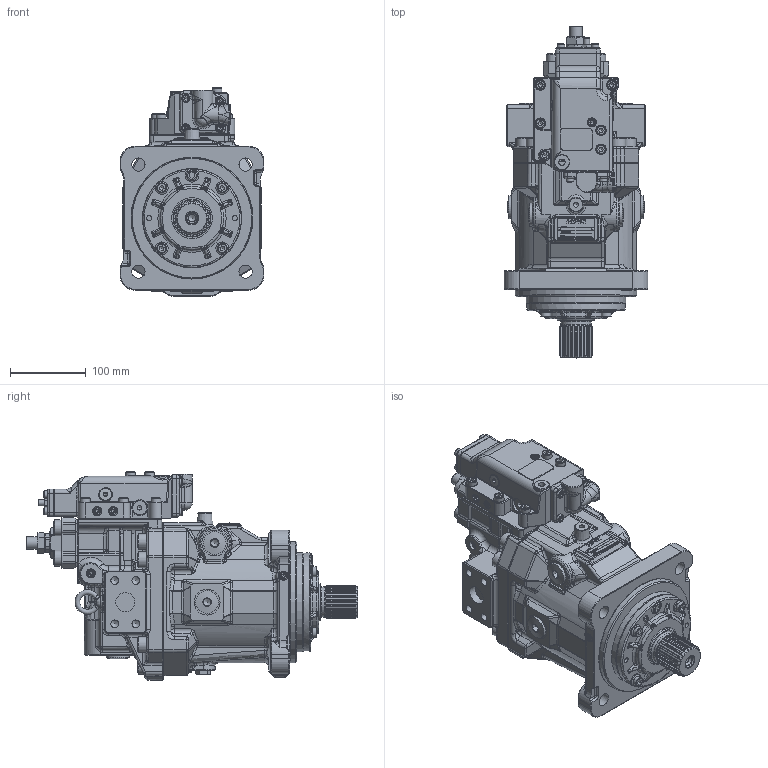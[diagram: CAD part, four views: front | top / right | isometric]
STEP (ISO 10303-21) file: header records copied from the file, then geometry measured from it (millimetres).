
FILE_DESCRIPTION(/* description */ (''),/* implementation_level */ '2;1');
FILE_NAME(/* name */ 'M7V112AD47-AA1P#XXXN-01.stp',/* time_stamp */ '2025-12-17T14:26:01Z',/* author */ ('Sjolliffe'),/* organization */ (''),/* preprocessor_version */ 'ST-DEVELOPER v20',/* originating_system */ 'Autodesk Inventor 2024',/* authorisation */ '');
FILE_SCHEMA (('CONFIG_CONTROL_DESIGN'));
Products named in the file (1): M7V112AD47-AA1P#XXXN-01
Bounding box: 190 x 437.9 x 275 mm (x, y, z)
Volume: 8199783.1 mm3; surface area: 392706.5 mm2
Topology: 1 solids, 1 shells, 4351 faces, 10975 edges, 6632 vertices
Faces by surface type: plane 1725, cylinder 1224, bspline 806, cone 365, torus 176, sphere 55
Full cylindrical faces by diameter (mm): 4 x1, 6 x1, 6.647 x6, 8 x2, 8.376 x1, 9.4 x18, 10 x9, 10.106 x9, 11 x8, 11.8 x1, 12 x16, 13 x10, 14 x7, 16 x2, 17 x4, 17.5 x4, 18 x2, 19 x1, 21 x15, 23 x12, 24 x2, 25 x4, 30 x6, 34 x5, 40 x1, 44 x1, 50 x1, 54 x1, 130 x1, 131 x1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
Entity records: 166905 total; most frequent: CARTESIAN_POINT 64294, ORIENTED_EDGE 21504, DIRECTION 19792, EDGE_CURVE 10752, AXIS2_PLACEMENT_3D 7391, VERTEX_POINT 6631, LINE 5010, VECTOR 5010
